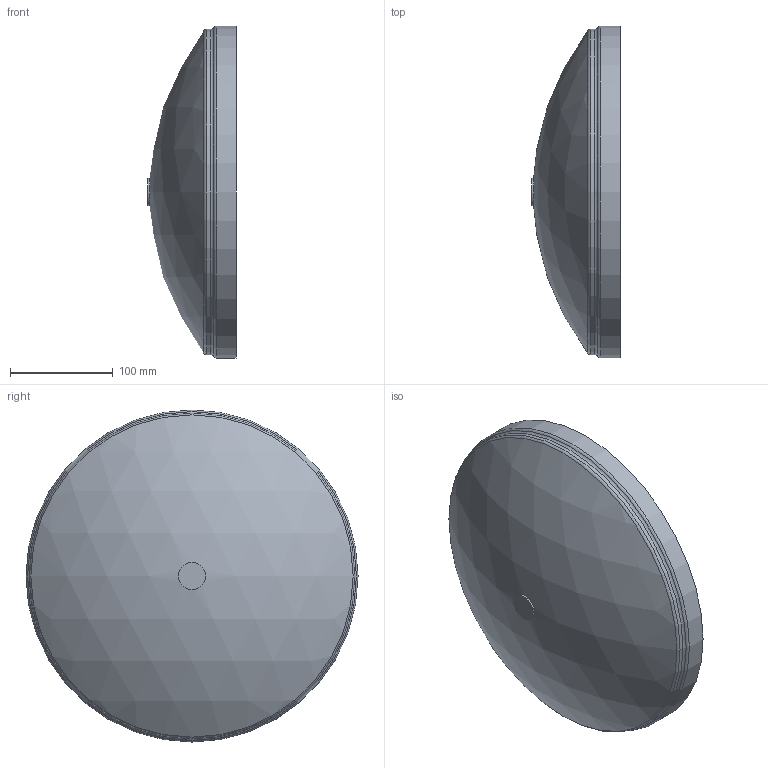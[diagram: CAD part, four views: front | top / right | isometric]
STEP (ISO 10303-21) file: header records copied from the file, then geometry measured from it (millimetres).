
FILE_DESCRIPTION(/* description */ ('VIC STRENGTHIN CAP No E496 w/Tap 1/2 inch BSPT (Concentric)','CAx-IF Rec.Pracs.---Representation and Presentation of Product Manufacturing Information (PMI)---4.0---2014-10-13'),/* implementation_level */ '2;1');
FILE_NAME(/* name */ 'C:\Users\Vjadhav\AppData\Roaming\Autodesk\ApplicationPlugins\Back Up\Victaulic_SS-StrengThin 100_Cap With Tap_No E496 (ST1)\Victaulic_SS-StrengThin 100_Cap With Tap_No E496 (ST1)_12.0x0.75 (300x20).stp',/* time_stamp */ '2020-07-07T18:47:31+05:00',/* author */ ('jheald'),/* organization */ ('Victaulic'),/* preprocessor_version */ 'ST-DEVELOPER v17.2',/* originating_system */ 'Autodesk Inventor 2019',/* authorisation */ '');
FILE_SCHEMA (('AP242_MANAGED_MODEL_BASED_3D_ENGINEERING_MIM_LF { 1 0 10303 442 1 1 4 }'));
Length unit declared in the file: inch
Products named in the file (1): E496-12.0x0.75
Bounding box: 85.85 x 323.85 x 323.85 mm (x, y, z)
Volume: 1024804.9 mm3; surface area: 231374.9 mm2
Topology: 1 solids, 1 shells, 12 faces, 26 edges, 18 vertices
Faces by surface type: cylinder 4, torus 4, plane 2, sphere 2
Full cylindrical faces by diameter (mm): 26.67 x1, 304.8 x1, 317.5 x1, 323.85 x1
Entity records: 492 total; most frequent: DIRECTION 100, CARTESIAN_POINT 74, ORIENTED_EDGE 52, AXIS2_PLACEMENT_3D 48, EDGE_CURVE 26, CIRCLE 22, VERTEX_POINT 18, EDGE_LOOP 14
